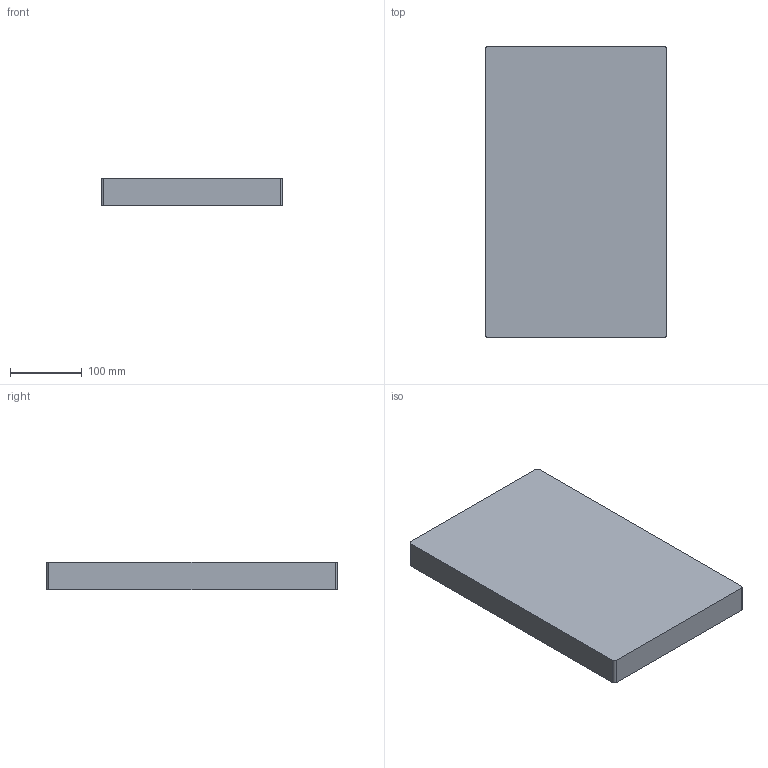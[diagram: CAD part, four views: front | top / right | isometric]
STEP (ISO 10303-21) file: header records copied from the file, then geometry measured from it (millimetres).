
FILE_DESCRIPTION(/* description */ (''),/* implementation_level */ '2;1');
FILE_NAME(/* name */ 'C:/Users/XPS Desktop/Dropbox/Distributable/PPS/PPS 10x16 Pallet.step',/* time_stamp */ '2021-11-03T11:10:23-07:00',/* author */ (''),/* organization */ (''),/* preprocessor_version */ 'ST-DEVELOPER v18.1',/* originating_system */ 'Autodesk Translation Framework v10.10.0.1391',/* authorisation */ '');
FILE_SCHEMA (('AUTOMOTIVE_DESIGN { 1 0 10303 214 3 1 1 }'));
Length unit declared in the file: inch
Products named in the file (1): PPS Pallet
Bounding box: 254 x 406.4 x 38.1 mm (x, y, z)
Volume: 3873306.7 mm3; surface area: 263071.9 mm2
Topology: 1 solids, 1 shells, 42 faces, 90 edges, 60 vertices
Faces by surface type: plane 24, cylinder 18
Full cylindrical faces by diameter (mm): 22.258 x2, 30.48 x2, 49.212 x2
Entity records: 1192 total; most frequent: DIRECTION 212, CARTESIAN_POINT 193, ORIENTED_EDGE 180, EDGE_CURVE 90, AXIS2_PLACEMENT_3D 79, VERTEX_POINT 60, LINE 54, VECTOR 54
